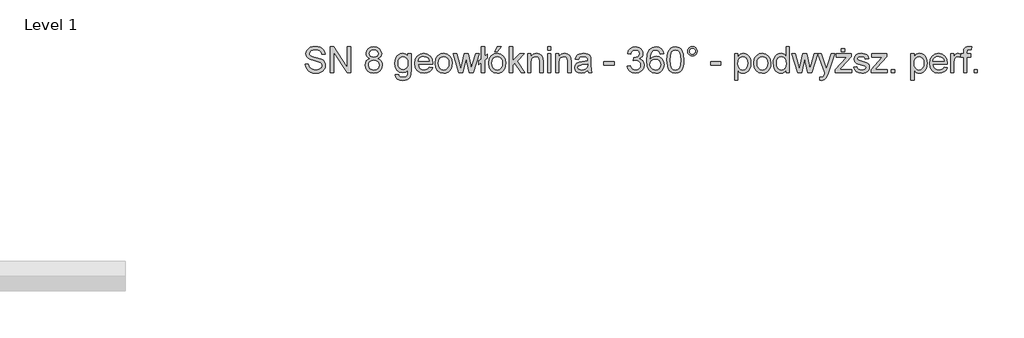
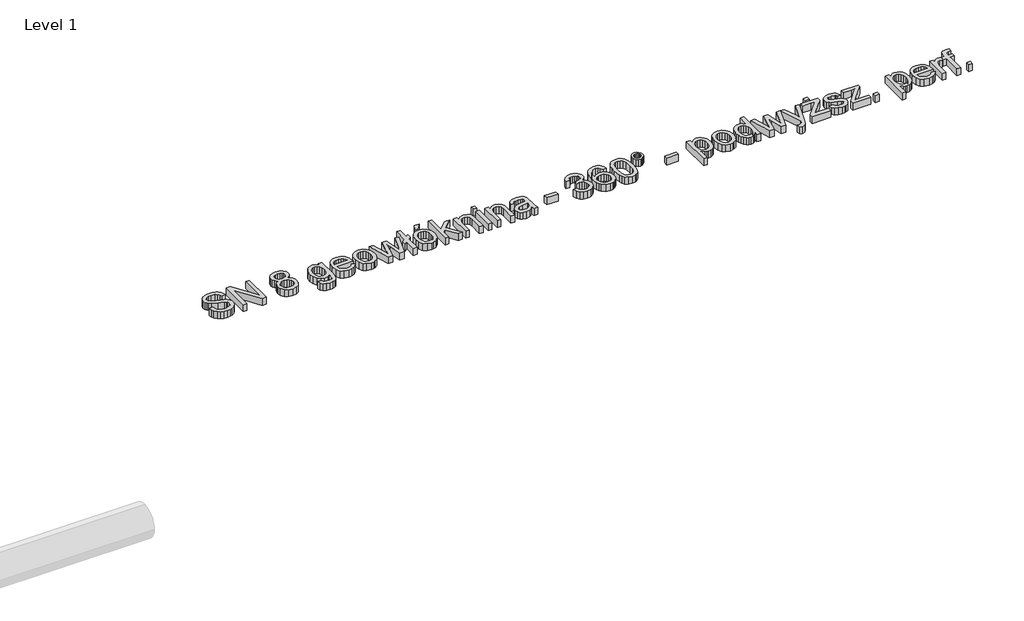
# One storey, part 8 of 10: 1 proxy.
"""IFC4 building model written with IfcOpenShell, lengths in millimetres."""

from ifc_helpers import new_model, si_unit, origin, origin_with_axes, place, context, project, spatial, polyline, outline, extrude, element, save

model = new_model("IFC4")

# Units and contexts
model_context = context("Model", 3, world=origin())
ifc_project = project(units=[si_unit("LENGTHUNIT", "METRE", prefix="MILLI")], contexts=[model_context])

# Site, building, storey
site = spatial("IfcSite", under=ifc_project)
building = spatial("IfcBuilding", under=site)
storey = spatial("IfcBuildingStorey", under=building, Name="Level 1", Elevation=0.0)

# Proxy
placement = place(None, origin())
element("IfcBuildingElementProxy", 1, Name="200mm Arial", ObjectType="200mm Arial", at=placement, inside=storey, context=model_context, shape_type="SweptSolid", body=[
    extrude(outline(polyline([(25360.1777004, 2231.0128426), (25385.291778, 2231.0128426), (25393.3851819, 2205.8742396), (25401.515374, 2196.983758), (25413.1527077, 2189.9817374), (25427.3774782, 2185.4383947), (25443.2699804, 2183.9239472), (25469.5122294, 2188.5102094), (25486.4593266, 2201.1162991), (25492.0266075, 2217.9652945), (25487.8572782, 2233.6370675), (25481.5051824, 2239.8358791), (25470.7875536, 2245.0414093), (25434.2200833, 2254.6308667), (25394.8567098, 2267.0162272), (25382.3548534, 2275.4652503), (25373.4950287, 2285.7046325), (25368.215922, 2297.5136446), (25366.4562198, 2310.6715573), (25368.632855, 2325.3807057), (25375.1627604, 2339.0965728), (25385.8742578, 2350.7216438), (25400.595669, 2359.1584042), (25418.2662675, 2364.2903581), (25437.8253269, 2366.0010093), (25459.0153298, 2364.2106503), (25477.5565824, 2358.8395732), (25492.786897, 2349.9981425), (25504.044086, 2337.796723), (25511.168734, 2322.9956041), (25514.0014253, 2306.3550752), (25488.8873478, 2306.3550752), (25484.2765601, 2321.3401351), (25474.6625773, 2332.1558658), (25459.6407292, 2338.7041653), (25438.8063455, 2340.8869318), (25417.4814525, 2338.7286908), (25402.8520119, 2332.2539676), (25394.390726, 2322.725824), (25391.5702974, 2311.4073212), (25393.5691229, 2301.7565502), (25399.5655994, 2293.9942401), (25413.7413189, 2287.0535332), (25440.5721791, 2279.9656734), (25485.0123241, 2267.3595837), (25499.3290651, 2258.2483729), (25509.3170613, 2247.0034466), (25515.1847791, 2233.7474321), (25517.140685, 2218.6029566), (25514.8904735, 2203.121256), (25508.1398389, 2188.5592603), (25497.1646927, 2176.026747), (25482.2409464, 2166.6334934), (25464.2944364, 2160.7657756), (25444.2509991, 2158.8098696), (25419.645825, 2160.9190598), (25399.3939211, 2167.2466301), (25383.2622956, 2177.8171061), (25371.0179566, 2192.6550132), (25363.1575446, 2210.7302819), (25360.1777004, 2231.0128426)])), origin_with_axes(), (0.0, 0.0, 1.0), 50.0),
    extrude(outline(polyline([(25554.8118013, 2161.9491293), (25554.8118013, 2362.8617496), (25581.6917125, 2362.8617496), (25686.6607084, 2203.6914731), (25686.6607084, 2362.8617496), (25711.774786, 2362.8617496), (25711.774786, 2161.9491293), (25684.8948748, 2161.9491293), (25579.9258789, 2321.1684569), (25579.9258789, 2161.9491293), (25554.8118013, 2161.9491293)])), origin_with_axes(), (0.0, 0.0, 1.0), 50.0),
    extrude(outline(polyline([(25861.3801307, 2272.6080335), (25847.9340437, 2279.2299094), (25838.4978706, 2288.2062301), (25832.9244583, 2299.3530545), (25831.0666543, 2312.4864418), (25835.1133562, 2332.1190776), (25847.253462, 2348.3426736), (25866.1258084, 2359.2319806), (25890.3692319, 2362.8617496), (25914.7598082, 2359.1461415), (25933.8774092, 2347.999317), (25946.2382442, 2331.5182037), (25950.3585226, 2311.7997287), (25948.525244, 2299.0894058), (25943.0254081, 2288.1326537), (25933.7977014, 2279.2115153), (25920.7808101, 2272.6080335), (25936.2379853, 2264.6433883), (25947.489043, 2252.914084), (25954.3500422, 2237.9842064), (25956.6370419, 2220.4178411), (25952.0998307, 2196.4074096), (25938.4881969, 2176.5663073), (25917.4698722, 2163.2489791), (25890.7125884, 2158.8098696), (25863.9553046, 2163.2673732), (25842.93698, 2176.6398837), (25829.3253461, 2196.6710583), (25824.7881349, 2221.1045542), (25827.1671051, 2239.3515011), (25834.3040158, 2254.3610865), (25845.830985, 2265.6182756), (25861.3801307, 2272.6080335)]), holes=[polyline([(25856.1807318, 2311.7506778), (25858.4064179, 2300.7877943), (25865.0834761, 2292.0322028), (25876.0157027, 2286.2932437), (25891.006894, 2284.3802573), (25905.6485974, 2286.280981), (25916.4152771, 2291.9831519), (25923.0371531, 2300.4444378), (25925.244445, 2310.6225063), (25922.9635767, 2321.186851), (25916.1209715, 2329.9240483), (25905.207139, 2335.7917662), (25890.7125884, 2337.7476721), (25876.1260673, 2335.8346857), (25865.2306289, 2330.0957266), (25858.4432061, 2321.6834916), (25856.1807318, 2311.7506778)]), polyline([(25849.9022124, 2221.987471), (25854.0960672, 2203.0783364), (25859.9024713, 2194.9665384), (25868.9339743, 2188.9271423), (25890.9087921, 2183.9239472), (25908.0030422, 2186.5543035), (25920.8298611, 2194.4453722), (25928.8496886, 2206.3954057), (25931.5229644, 2221.202656), (25928.7638494, 2236.2612924), (25920.4865046, 2248.4749746), (25907.3653801, 2256.5683785), (25890.0749263, 2259.2661798), (25873.2197995, 2256.6051667), (25860.5217393, 2248.6221274), (25852.5570941, 2236.6414371), (25849.9022124, 2221.987471)])]), origin_with_axes(), (0.0, 0.0, 1.0), 50.0),
    extrude(outline(polyline([(26057.0933521, 2149.3920906), (26082.2074296, 2146.2528309), (26084.9788073, 2138.4046817), (26090.3498845, 2133.0090791), (26100.9080977, 2128.8152243), (26114.728198, 2127.4172727), (26129.4680033, 2128.9991653), (26140.4308867, 2133.744843), (26148.0337813, 2141.3477376), (26152.6936199, 2151.5012807), (26154.4104026, 2180.7846875), (26136.7275413, 2166.6580189), (26115.1696564, 2161.9491293), (26089.2768953, 2167.4305711), (26069.9692219, 2183.8748963), (26057.9578748, 2207.9834297), (26053.9540924, 2236.4574961), (26055.7505828, 2256.7339254), (26061.140054, 2275.3794112), (26069.9324337, 2291.1799429), (26081.9376495, 2302.9215099), (26096.7448998, 2310.2055734), (26113.9433831, 2312.6335946), (26136.3473966, 2307.1398901), (26154.4104026, 2290.6587767), (26154.4104026, 2309.4943349), (26179.5244801, 2309.4943349), (26179.5244801, 2182.1090627), (26177.8076974, 2152.6968972), (26172.6573495, 2133.3279101), (26163.7852621, 2120.4826971), (26150.9032609, 2110.6418537), (26134.2933888, 2104.3878598), (26114.2376887, 2102.3031952), (26090.8710506, 2105.2401198), (26072.4708195, 2114.0508936), (26060.6679388, 2128.760042), (26057.0933521, 2149.3920906)]), holes=[polyline([(26079.0681699, 2238.1742787), (26081.7475771, 2215.1387345), (26089.7857987, 2199.3014146), (26101.8707223, 2190.1227588), (26116.6902353, 2187.0632069), (26131.3993838, 2190.1043647), (26143.545621, 2199.2278382), (26151.6942072, 2214.862823), (26154.4104026, 2237.4385148), (26151.6144994, 2259.2109975), (26143.2267899, 2274.8889019), (26130.9027431, 2284.3618632), (26116.2978279, 2287.519517), (26101.9565614, 2284.4109142), (26089.9329515, 2275.0851056), (26081.7843653, 2259.6401932), (26079.0681699, 2238.1742787)])]), origin_with_axes(), (0.0, 0.0, 1.0), 50.0),
    extrude(outline(polyline([(26320.4968606, 2205.898765), (26345.1204289, 2202.7595053), (26336.2483414, 2184.20599), (26322.091016, 2170.3368388), (26302.9672836, 2161.6916119), (26279.1959753, 2158.8098696), (26249.7286275, 2163.782408), (26227.0548339, 2178.7000229), (26212.5970715, 2202.5939584), (26207.7778173, 2234.4954588), (26212.6461224, 2267.4699483), (26227.2510376, 2292.1303047), (26249.6182629, 2307.5077721), (26277.7734983, 2312.6335946), (26305.0519482, 2307.5200348), (26326.8489564, 2292.1793556), (26341.1411719, 2267.5680502), (26345.9052438, 2234.6426116), (26345.758091, 2227.8735829), (26232.8918949, 2227.8735829), (26237.2390338, 2209.0748129), (26247.3373945, 2195.2547126), (26261.9116529, 2186.7566385), (26279.6864846, 2183.9239472), (26304.3100529, 2189.172397), (26313.4580518, 2195.9782139), (26320.4968606, 2205.898765)]), holes=[polyline([(26232.8918949, 2252.9876604), (26320.7911662, 2252.9876604), (26317.3943891, 2266.2559377), (26310.735725, 2275.7472932), (26296.0940216, 2284.5764611), (26277.6753964, 2287.519517), (26260.7466933, 2285.1712036), (26246.7487833, 2278.1262634), (26237.0183046, 2267.1449859), (26232.8918949, 2252.9876604)])]), origin_with_axes(), (0.0, 0.0, 1.0), 50.0),
    extrude(outline(polyline([(26364.7408019, 2235.7217321), (26370.1731927, 2271.295921), (26376.9636812, 2285.119087), (26386.4703651, 2296.299634), (26406.605773, 2308.5501044), (26430.7143064, 2312.6335946), (26457.0975768, 2307.6610563), (26478.1710838, 2292.7434414), (26491.9850527, 2269.0579722), (26496.589709, 2237.7818713), (26494.5540953, 2212.4102763), (26488.4472542, 2193.0964716), (26478.4469953, 2178.6325778), (26464.7311282, 2167.8107158), (26448.4400872, 2161.0600812), (26430.7143064, 2158.8098696), (26404.0122049, 2163.7640139), (26382.9632234, 2178.6264465), (26369.2964073, 2202.8085563), (26364.7408019, 2235.7217321)]), holes=[polyline([(26389.8548795, 2235.770783), (26392.7611472, 2213.0418071), (26401.4799505, 2196.848868), (26414.601075, 2187.1551774), (26430.7143064, 2183.9239472), (26446.7539614, 2187.1735715), (26459.8505604, 2196.9224443), (26468.5693637, 2213.3299813), (26471.4756315, 2236.555598), (26468.5509696, 2258.6223863), (26459.776984, 2274.5945963), (26446.6619909, 2284.2882868), (26430.7143064, 2287.519517), (26414.601075, 2284.3005496), (26401.4799505, 2274.6436472), (26392.7611472, 2258.4874962), (26389.8548795, 2235.770783)])]), origin_with_axes(), (0.0, 0.0, 1.0), 50.0),
    extrude(outline(polyline([(26549.3194616, 2161.9491293), (26504.4378582, 2309.4943349), (26530.5329544, 2309.4943349), (26555.9903885, 2223.409948), (26563.5932831, 2192.6550132), (26569.8227515, 2222.2817766), (26590.0807867, 2309.4943349), (26620.0018556, 2309.4943349), (26640.161789, 2222.5270312), (26645.7045444, 2195.696171), (26653.6507955, 2223.9985592), (26679.1572805, 2309.4943349), (26705.3504785, 2309.4943349), (26660.1255186, 2161.9491293), (26629.7629913, 2161.9491293), (26610.4859747, 2248.4749746), (26604.8941684, 2275.4529876), (26580.0253455, 2161.9491293), (26549.3194616, 2161.9491293)])), origin_with_axes(), (0.0, 0.0, 1.0), 50.0),
    extrude(outline(polyline([(26722.6164068, 2241.3625894), (26703.7808487, 2226.303953), (26703.7808487, 2254.5572903), (26722.6164068, 2269.6159266), (26722.6164068, 2362.8617496), (26747.7304844, 2362.8617496), (26747.7304844, 2289.726809), (26766.5660425, 2304.7854453), (26766.5660425, 2276.5321081), (26747.7304844, 2261.4734718), (26747.7304844, 2161.9491293), (26722.6164068, 2161.9491293), (26722.6164068, 2241.3625894)])), origin_with_axes(), (0.0, 0.0, 1.0), 50.0),
    extrude(outline(polyline([(26826.2119767, 2325.1906333), (26845.0475348, 2362.8617496), (26876.4401318, 2362.8617496), (26845.0475348, 2325.1906333), (26826.2119767, 2325.1906333)])), origin_with_axes(), (0.0, 0.0, 1.0), 50.0),
    extrude(outline(polyline([(26779.1230813, 2235.7217321), (26784.5554721, 2271.295921), (26791.3459606, 2285.119087), (26800.8526445, 2296.299634), (26820.9880523, 2308.5501044), (26845.0965858, 2312.6335946), (26871.4798562, 2307.6610563), (26892.5533631, 2292.7434414), (26906.3673321, 2269.0579722), (26910.9719884, 2237.7818713), (26908.9363747, 2212.4102763), (26902.8295335, 2193.0964716), (26892.8292746, 2178.6325778), (26879.1134076, 2167.8107158), (26862.8223666, 2161.0600812), (26845.0965858, 2158.8098696), (26818.3944843, 2163.7640139), (26797.3455028, 2178.6264465), (26783.6786867, 2202.8085563), (26779.1230813, 2235.7217321)]), holes=[polyline([(26804.2371588, 2235.770783), (26807.1434266, 2213.0418071), (26815.8622299, 2196.848868), (26828.9833544, 2187.1551774), (26845.0965858, 2183.9239472), (26861.1362408, 2187.1735715), (26874.2328398, 2196.9224443), (26882.9516431, 2213.3299813), (26885.8579108, 2236.555598), (26882.933249, 2258.6223863), (26874.1592634, 2274.5945963), (26861.0442703, 2284.2882868), (26845.0965858, 2287.519517), (26828.9833544, 2284.3005496), (26815.8622299, 2274.6436472), (26807.1434266, 2258.4874962), (26804.2371588, 2235.770783)])]), origin_with_axes(), (0.0, 0.0, 1.0), 50.0),
    extrude(outline(polyline([(26939.2253256, 2161.9491293), (26939.2253256, 2362.8617496), (26964.3394031, 2362.8617496), (26964.3394031, 2254.9006468), (27020.6498739, 2309.4943349), (27055.3779342, 2309.4943349), (26998.3807504, 2254.2139337), (27058.5171939, 2161.9491293), (27029.1847362, 2161.9491293), (26980.3790581, 2236.7518017), (26964.3394031, 2221.202656), (26964.3394031, 2161.9491293), (26939.2253256, 2161.9491293)])), origin_with_axes(), (0.0, 0.0, 1.0), 50.0),
    extrude(outline(polyline([(27080.4920117, 2161.9491293), (27080.4920117, 2309.4943349), (27105.6060893, 2309.4943349), (27105.6060893, 2288.8929431), (27114.3310239, 2299.2794781), (27124.8095294, 2306.6984317), (27137.0416058, 2311.1498039), (27151.027253, 2312.6335946), (27174.7433789, 2307.8511286), (27190.9301867, 2295.2940899), (27198.4595049, 2276.8264137), (27199.78388, 2252.546202), (27199.78388, 2161.9491293), (27174.6698025, 2161.9491293), (27174.6698025, 2249.1616877), (27171.7757975, 2271.3817602), (27161.548678, 2283.1294586), (27144.3072752, 2287.519517), (27129.5981267, 2285.0547077), (27117.0594821, 2277.6602796), (27108.4694375, 2263.3741954), (27105.6060893, 2240.2344179), (27105.6060893, 2161.9491293), (27080.4920117, 2161.9491293)])), origin_with_axes(), (0.0, 0.0, 1.0), 50.0),
    extrude(outline(polyline([(27234.3157367, 2337.7476721), (27234.3157367, 2362.8617496), (27259.4298142, 2362.8617496), (27259.4298142, 2337.7476721), (27234.3157367, 2337.7476721)])), origin_with_axes(), (0.0, 0.0, 1.0), 50.0),
    extrude(outline(polyline([(27234.3157367, 2161.9491293), (27234.3157367, 2309.4943349), (27259.4298142, 2309.4943349), (27259.4298142, 2161.9491293), (27234.3157367, 2161.9491293)])), origin_with_axes(), (0.0, 0.0, 1.0), 50.0),
    extrude(outline(polyline([(27297.1009305, 2161.9491293), (27297.1009305, 2309.4943349), (27322.215008, 2309.4943349), (27322.215008, 2288.8929431), (27330.9399427, 2299.2794781), (27341.4184482, 2306.6984317), (27353.6505245, 2311.1498039), (27367.6361717, 2312.6335946), (27391.3522977, 2307.8511286), (27407.5391055, 2295.2940899), (27415.0684236, 2276.8264137), (27416.3927988, 2252.546202), (27416.3927988, 2161.9491293), (27391.2787213, 2161.9491293), (27391.2787213, 2249.1616877), (27388.3847162, 2271.3817602), (27378.1575968, 2283.1294586), (27360.9161939, 2287.519517), (27346.2070455, 2285.0547077), (27333.6684008, 2277.6602796), (27325.0783562, 2263.3741954), (27322.215008, 2240.2344179), (27322.215008, 2161.9491293), (27297.1009305, 2161.9491293)])), origin_with_axes(), (0.0, 0.0, 1.0), 50.0),
    extrude(outline(polyline([(27545.1024462, 2180.7846875), (27520.7486581, 2163.7640139), (27493.8442215, 2158.8098696), (27472.8565537, 2161.7897138), (27457.3748531, 2170.7292463), (27447.8283153, 2184.3040919), (27444.646136, 2201.1898755), (27449.4531274, 2221.0555032), (27462.0837426, 2235.4764774), (27479.668502, 2243.7170341), (27501.3980652, 2247.493956), (27544.9552934, 2256.1269201), (27545.1024462, 2261.7187264), (27543.3734008, 2272.9268646), (27538.1862647, 2280.259979), (27526.5857191, 2285.7046325), (27510.4234368, 2287.519517), (27495.4629023, 2286.3116378), (27485.0150536, 2282.6880002), (27477.8904057, 2275.9864165), (27472.8994733, 2265.5446992), (27447.7853957, 2268.6839589), (27458.6501773, 2293.2094252), (27467.9085409, 2301.4622446), (27480.5268933, 2307.5813485), (27513.6607983, 2312.6335946), (27544.0969021, 2308.1699597), (27561.289254, 2296.9618216), (27568.9902504, 2279.9166225), (27570.2165237, 2257.9418046), (27570.2165237, 2226.6963605), (27571.491848, 2183.0655559), (27576.4950431, 2161.9491293), (27551.3809656, 2161.9491293), (27545.1024462, 2180.7846875)]), holes=[polyline([(27545.1024462, 2231.0128426), (27504.5863758, 2223.3118461), (27482.9794399, 2219.2406187), (27473.1937789, 2212.6187428), (27469.7602136, 2202.9557091), (27471.6302804, 2195.4877046), (27477.2404808, 2189.3686007), (27486.4681875, 2185.2851106), (27499.1907732, 2183.9239472), (27512.6797797, 2185.426132), (27524.5991563, 2189.9326864), (27540.9821678, 2204.476288), (27544.9552934, 2223.9004573), (27545.1024462, 2231.0128426)])]), origin_with_axes(), (0.0, 0.0, 1.0), 50.0),
    extrude(outline(polyline([(27670.6728339, 2221.5950635), (27670.6728339, 2246.709141), (27749.1543262, 2246.709141), (27749.1543262, 2221.5950635), (27670.6728339, 2221.5950635)])), origin_with_axes(), (0.0, 0.0, 1.0), 50.0),
    extrude(outline(polyline([(27849.6106363, 2215.3165441), (27874.7247139, 2218.4558038), (27880.347177, 2202.6736662), (27888.5816023, 2192.0173511), (27899.83266, 2185.9472982), (27914.5050203, 2183.9239472), (27931.7218977, 2186.7075876), (27945.0147004, 2195.0585089), (27953.5127745, 2207.5174458), (27956.3454659, 2222.6251331), (27953.5373, 2236.9663995), (27945.1128023, 2248.5976019), (27932.3595598, 2256.3047297), (27916.5651594, 2258.8737723), (27898.9558746, 2256.1269201), (27901.7517778, 2281.2409976), (27905.7739543, 2280.946692), (27920.8203279, 2282.7493138), (27934.2725462, 2288.1571792), (27943.7639016, 2297.3051781), (27946.9276868, 2310.3282007), (27944.6345557, 2321.1745882), (27937.7551624, 2329.9730993), (27927.2582628, 2335.8040289), (27914.1126128, 2337.7476721), (27900.9424374, 2335.7856348), (27890.1757577, 2329.8995229), (27882.3153457, 2320.0893363), (27877.8639736, 2306.3550752), (27852.749896, 2309.4943349), (27860.1443241, 2332.0455012), (27873.3022368, 2348.8822338), (27891.3039291, 2359.3668707), (27913.229696, 2362.8617496), (27929.017965, 2361.1388356), (27943.518647, 2355.9700936), (27955.7445919, 2347.815376), (27964.7086499, 2337.1345354), (27970.2084857, 2324.8288827), (27972.0417643, 2311.7997287), (27970.3004562, 2299.6596229), (27965.0765319, 2288.6476885), (27956.4435677, 2279.2666976), (27944.4751402, 2272.0194223), (27960.1959641, 2265.6673265), (27971.8455606, 2254.8515959), (27979.0560477, 2240.1608415), (27981.4595434, 2222.1836747), (27976.652552, 2197.7072593), (27962.2315778, 2177.2530203), (27940.4652264, 2163.4206573), (27913.6221035, 2158.8098696), (27889.3418918, 2162.746207), (27869.5743659, 2174.555219), (27855.827842, 2192.618225), (27849.6106363, 2215.3165441)])), origin_with_axes(), (0.0, 0.0, 1.0), 50.0),
    extrude(outline(polyline([(28132.1440086, 2309.4943349), (28107.0299311, 2306.3550752), (28097.5140501, 2327.2998234), (28086.121971, 2335.1357099), (28072.3509217, 2337.7476721), (28049.6893908, 2331.6653564), (28040.2532176, 2322.057505), (28032.5460898, 2308.8321473), (28027.3405596, 2290.1253478), (28025.4091791, 2264.0731712), (28035.4830144, 2275.8270009), (28047.5556752, 2284.1104772), (28060.9527112, 2289.0217018), (28074.999672, 2290.6587767), (28098.2007632, 2286.1828791), (28117.6739835, 2272.7551863), (28130.8809471, 2252.2396337), (28135.2832683, 2226.5001568), (28133.2108664, 2208.5168586), (28126.9936607, 2191.8456728), (28117.146686, 2177.7067415), (28104.184977, 2167.3202065), (28088.697145, 2160.9374539), (28071.2718012, 2158.8098696), (28042.7793406, 2164.4507269), (28020.0871529, 2181.3732987), (28011.4281304, 2194.4821604), (28005.2431144, 2211.2453167), (28000.2951016, 2255.7345126), (28005.788806, 2305.7542013), (28012.6559366, 2324.8319484), (28022.2699194, 2339.9549641), (28032.6901769, 2349.9766828), (28044.7720348, 2357.1350532), (28073.9205515, 2362.8617496), (28095.956683, 2359.3178198), (28113.6027561, 2348.6860301), (28125.9635911, 2331.8002465), (28132.1440086, 2309.4943349)]), holes=[polyline([(28025.4091791, 2226.8925642), (28031.2217146, 2205.1384756), (28046.6727584, 2189.3440752), (28069.3097638, 2183.9239472), (28085.8828477, 2186.7321131), (28098.9120017, 2195.1566108), (28107.3548935, 2208.4003626), (28110.1691908, 2225.6662909), (28107.3916817, 2242.2393748), (28099.0591545, 2254.8761213), (28085.8092713, 2262.8775547), (28068.2796943, 2265.5446992), (28051.7311358, 2262.8775547), (28037.8926415, 2254.8761213), (28028.5300447, 2242.5459431), (28025.4091791, 2226.8925642)])]), origin_with_axes(), (0.0, 0.0, 1.0), 50.0),
    extrude(outline(polyline([(28157.2580862, 2260.7867587), (28159.1036275, 2292.9457765), (28164.6402515, 2318.5932829), (28173.8127759, 2338.1216855), (28186.5660184, 2351.9233917), (28202.9919495, 2360.1271601), (28223.1825397, 2362.8617496), (28238.658109, 2361.2430689), (28252.5149974, 2356.3870265), (28264.1032803, 2348.483695), (28272.7730326, 2337.7231466), (28284.5452565, 2307.9982814), (28289.1069932, 2260.7867587), (28287.279846, 2228.811682), (28281.7984043, 2203.2254892), (28272.6810621, 2183.6786925), (28259.9462137, 2169.821804), (28243.4834945, 2161.5628532), (28223.1825397, 2158.8098696), (28197.0874435, 2163.5923356), (28177.2708667, 2177.9397334), (28168.5152752, 2193.0688805), (28162.2612813, 2211.919767), (28157.2580862, 2260.7867587)]), holes=[polyline([(28182.3721637, 2260.8358096), (28185.3152197, 2221.3314147), (28194.1443875, 2198.4675487), (28207.2900375, 2187.5598476), (28223.1825397, 2183.9239472), (28239.0750419, 2187.5721103), (28252.2206918, 2198.5165997), (28261.0498597, 2221.3927284), (28263.9929157, 2260.8358096), (28261.1479616, 2299.4511564), (28252.6130993, 2322.492832), (28239.4919748, 2333.9339621), (28222.8882341, 2337.7476721), (28207.1674102, 2334.3876832), (28194.536795, 2324.3077165), (28185.4133215, 2299.8313011), (28182.3721637, 2260.8358096)])]), origin_with_axes(), (0.0, 0.0, 1.0), 50.0),
    extrude(outline(polyline([(28317.3603305, 2328.378944), (28320.1255768, 2342.8612318), (28328.4213158, 2355.0136004), (28340.5920785, 2363.2541571), (28354.9823958, 2366.0010093), (28369.5382601, 2363.2541571), (28381.7151542, 2355.0136004), (28389.9557108, 2342.8612318), (28392.7025631, 2328.378944), (28389.9373167, 2313.9150502), (28381.6415778, 2301.719762), (28369.4462896, 2293.4240231), (28354.9823958, 2290.6587767), (28340.5920785, 2293.405629), (28328.4213158, 2301.6461856), (28320.1255768, 2313.8230797), (28317.3603305, 2328.378944)]), holes=[polyline([(28333.0566289, 2328.329893), (28334.6691783, 2319.8808699), (28339.5068266, 2312.7807474), (28346.6253432, 2307.9614932), (28355.0804977, 2306.3550752), (28363.4620758, 2307.9614932), (28370.556067, 2312.7807474), (28375.3937152, 2319.8808699), (28377.0062646, 2328.329893), (28375.3937152, 2336.7789162), (28370.556067, 2343.8790387), (28363.4620758, 2348.6982928), (28355.0804977, 2350.3047109), (28346.6253432, 2348.6982928), (28339.5068266, 2343.8790387), (28334.6691783, 2336.7789162), (28333.0566289, 2328.329893)])]), origin_with_axes(), (0.0, 0.0, 1.0), 50.0),
    extrude(outline(polyline([(28496.2981329, 2221.5950635), (28496.2981329, 2246.709141), (28574.7796252, 2246.709141), (28574.7796252, 2221.5950635), (28496.2981329, 2221.5950635)])), origin_with_axes(), (0.0, 0.0, 1.0), 50.0),
    extrude(outline(polyline([(28681.5144548, 2105.4424549), (28681.5144548, 2309.4943349), (28706.6285323, 2309.4943349), (28706.6285323, 2284.8707667), (28723.9925625, 2305.6928876), (28734.6856658, 2310.8984178), (28747.4389083, 2312.6335946), (28764.4227937, 2310.2055734), (28779.2729636, 2302.9215099), (28791.3640185, 2291.2228624), (28800.0705591, 2275.5510895), (28805.3312716, 2257.0466251), (28807.0848424, 2236.8499036), (28805.104411, 2215.3717264), (28799.1631168, 2196.1621549), (28789.4510321, 2180.1960763), (28776.1582294, 2168.4483779), (28760.6765287, 2161.2194967), (28744.3977505, 2158.8098696), (28732.8523872, 2160.4224191), (28722.5455599, 2165.2600673), (28706.6285323, 2181.5695024), (28706.6285323, 2105.4424549), (28681.5144548, 2105.4424549)]), holes=[polyline([(28706.6285323, 2234.5445097), (28709.3447277, 2212.0301316), (28717.4933139, 2196.2847822), (28729.5169238, 2187.0141559), (28743.8581902, 2183.9239472), (28758.4324486, 2187.1245205), (28770.7626268, 2196.7262406), (28779.1687304, 2213.0479385), (28781.9707649, 2236.4084452), (28779.2361754, 2258.8001959), (28771.0324069, 2274.7662745), (28759.0271911, 2284.3312064), (28744.8882598, 2287.519517), (28730.6941461, 2284.1288713), (28718.2290779, 2273.9569341), (28709.5286687, 2257.3225366), (28706.6285323, 2234.5445097)])]), origin_with_axes(), (0.0, 0.0, 1.0), 50.0),
    extrude(outline(polyline([(28829.0596603, 2235.7217321), (28834.4920511, 2271.295921), (28841.2825396, 2285.119087), (28850.7892235, 2296.299634), (28870.9246313, 2308.5501044), (28895.0331648, 2312.6335946), (28921.4164352, 2307.6610563), (28942.4899421, 2292.7434414), (28956.3039111, 2269.0579722), (28960.9085674, 2237.7818713), (28958.8729537, 2212.4102763), (28952.7661125, 2193.0964716), (28942.7658536, 2178.6325778), (28929.0499866, 2167.8107158), (28912.7589456, 2161.0600812), (28895.0331648, 2158.8098696), (28868.3310633, 2163.7640139), (28847.2820818, 2178.6264465), (28833.6152657, 2202.8085563), (28829.0596603, 2235.7217321)]), holes=[polyline([(28854.1737378, 2235.770783), (28857.0800056, 2213.0418071), (28865.7988089, 2196.848868), (28878.9199334, 2187.1551774), (28895.0331648, 2183.9239472), (28911.0728197, 2187.1735715), (28924.1694188, 2196.9224443), (28932.8882221, 2213.3299813), (28935.7944898, 2236.555598), (28932.869828, 2258.6223863), (28924.0958424, 2274.5945963), (28910.9808492, 2284.2882868), (28895.0331648, 2287.519517), (28878.9199334, 2284.3005496), (28865.7988089, 2274.6436472), (28857.0800056, 2258.4874962), (28854.1737378, 2235.770783)])]), origin_with_axes(), (0.0, 0.0, 1.0), 50.0),
    extrude(outline(polyline([(29080.2004357, 2161.9491293), (29080.2004357, 2185.6407298), (29072.6864459, 2173.9022285), (29063.5844322, 2165.5175847), (29052.8943946, 2160.4867984), (29040.616333, 2158.8098696), (29024.3804743, 2161.2378908), (29009.5180417, 2168.5219543), (28996.9364774, 2180.1531567), (28987.5432238, 2195.6225946), (28981.6939001, 2214.3048686), (28979.7441255, 2235.5745793), (28981.5406159, 2256.5806412), (28986.9300871, 2275.5510895), (28995.9064078, 2291.4068034), (29008.4634466, 2303.0686627), (29023.6508416, 2310.2423616), (29040.5182311, 2312.6335946), (29052.8054898, 2310.9229433), (29063.6702713, 2305.7909895), (29080.2004357, 2288.0100264), (29080.2004357, 2362.8617496), (29105.3145132, 2362.8617496), (29105.3145132, 2161.9491293), (29080.2004357, 2161.9491293)]), holes=[polyline([(29004.858203, 2235.6726812), (29007.6908944, 2212.955968), (29016.1889685, 2196.799817), (29028.5375408, 2187.1429146), (29042.9217268, 2183.9239472), (29057.2997815, 2186.9957618), (29069.3356541, 2196.2112058), (29077.4842403, 2211.7419574), (29080.2004357, 2233.7596948), (29077.4351893, 2257.83144), (29069.1394503, 2274.5210199), (29056.7970094, 2284.2698927), (29041.8916572, 2287.519517), (29027.3603184, 2284.3986514), (29015.4532045, 2275.0360547), (29007.5069534, 2258.9534801), (29004.858203, 2235.6726812)])]), origin_with_axes(), (0.0, 0.0, 1.0), 50.0),
    extrude(outline(polyline([(29167.4620449, 2161.9491293), (29122.5804415, 2309.4943349), (29148.6755377, 2309.4943349), (29174.1329718, 2223.409948), (29181.7358663, 2192.6550132), (29187.9653348, 2222.2817766), (29208.22337, 2309.4943349), (29238.1444389, 2309.4943349), (29258.3043723, 2222.5270312), (29263.8471277, 2195.696171), (29271.7933787, 2223.9985592), (29297.2998637, 2309.4943349), (29323.4930618, 2309.4943349), (29278.2681019, 2161.9491293), (29247.9055745, 2161.9491293), (29228.628558, 2248.4749746), (29223.0367517, 2275.4529876), (29198.1679288, 2161.9491293), (29167.4620449, 2161.9491293)])), origin_with_axes(), (0.0, 0.0, 1.0), 50.0),
    extrude(outline(polyline([(29340.7589901, 2105.4424549), (29337.6197304, 2129.6245647), (29350.3729729, 2127.4172727), (29362.2923496, 2130.1886504), (29369.6009385, 2137.9141723), (29376.4680691, 2156.4063739), (29378.4301064, 2162.4886896), (29325.0626916, 2309.4943349), (29351.5501953, 2309.4943349), (29379.8525835, 2227.5792773), (29389.7118209, 2194.8132542), (29399.5710584, 2223.7533045), (29428.6582615, 2309.4943349), (29454.9495614, 2309.4943349), (29403.5932349, 2158.4174622), (29390.2513812, 2125.6514392), (29375.6832542, 2107.9440524), (29356.111932, 2102.3031952), (29340.7589901, 2105.4424549)])), origin_with_axes(), (0.0, 0.0, 1.0), 50.0),
    extrude(outline(polyline([(29460.0508584, 2161.9491293), (29460.0508584, 2185.5916789), (29546.7238565, 2284.3802573), (29521.0702187, 2284.3802573), (29466.3293778, 2284.3802573), (29466.3293778, 2309.4943349), (29582.4819864, 2309.4943349), (29582.4819864, 2288.1571792), (29505.6191749, 2200.5031624), (29493.846951, 2187.0632069), (29522.8851032, 2187.0632069), (29585.6212461, 2187.0632069), (29585.6212461, 2161.9491293), (29460.0508584, 2161.9491293)])), origin_with_axes(), (0.0, 0.0, 1.0), 50.0),
    extrude(outline(polyline([(29507.1397538, 2325.1906333), (29507.1397538, 2350.3047109), (29532.2538313, 2350.3047109), (29532.2538313, 2325.1906333), (29507.1397538, 2325.1906333)])), origin_with_axes(), (0.0, 0.0, 1.0), 50.0),
    extrude(outline(polyline([(29601.3175446, 2205.898765), (29626.4316221, 2209.0380247), (29630.3924849, 2198.2958705), (29638.0566931, 2190.3986703), (29649.4732977, 2185.542628), (29664.6913496, 2183.9239472), (29679.7254605, 2185.4077379), (29690.2959365, 2189.85911), (29696.5499304, 2196.3093077), (29698.634595, 2203.7895749), (29696.5376676, 2210.1907216), (29690.2468855, 2215.0712894), (29664.397044, 2222.2327256), (29626.5787749, 2234.5199843), (29617.0077117, 2240.6942704), (29610.073136, 2248.8673821), (29604.4568043, 2269.1254173), (29608.9694901, 2287.8383481), (29621.2812742, 2302.136695), (29637.2473528, 2309.5679113), (29658.8542886, 2312.6335946), (29689.4130197, 2307.7039758), (29700.841887, 2301.903703), (29708.837189, 2294.3621221), (29717.4701532, 2271.8232186), (29692.3560756, 2268.6839589), (29689.1861591, 2276.5872904), (29682.9137711, 2282.5408474), (29660.8163259, 2287.519517), (29646.3953517, 2286.3300319), (29636.7813689, 2282.7615766), (29631.3735036, 2277.6112286), (29629.5708818, 2271.6760658), (29632.5629887, 2264.3674768), (29641.9317168, 2258.8247214), (29663.5631781, 2253.4781697), (29700.4249541, 2241.656895), (29717.5437296, 2228.2659903), (29722.1974368, 2218.4190156), (29723.7486726, 2206.4383253), (29721.9276567, 2194.0529648), (29716.4646091, 2182.4033683), (29707.5679961, 2172.4031094), (29695.4462844, 2164.9657617), (29680.804581, 2160.3488427), (29664.3479931, 2158.8098696), (29639.0254491, 2161.7774511), (29620.5455102, 2170.6801954), (29608.2092006, 2185.4200006), (29601.3175446, 2205.898765)])), origin_with_axes(), (0.0, 0.0, 1.0), 50.0),
    extrude(outline(polyline([(29736.3057113, 2161.9491293), (29736.3057113, 2185.5916789), (29822.9787094, 2284.3802573), (29797.3250716, 2284.3802573), (29742.5842307, 2284.3802573), (29742.5842307, 2309.4943349), (29858.7368393, 2309.4943349), (29858.7368393, 2288.1571792), (29781.8740278, 2200.5031624), (29770.1018039, 2187.0632069), (29799.1399561, 2187.0632069), (29861.876099, 2187.0632069), (29861.876099, 2161.9491293), (29736.3057113, 2161.9491293)])), origin_with_axes(), (0.0, 0.0, 1.0), 50.0),
    extrude(outline(polyline([(29893.2686959, 2161.9491293), (29893.2686959, 2187.0632069), (29918.3827735, 2187.0632069), (29918.3827735, 2161.9491293), (29893.2686959, 2161.9491293)])), origin_with_axes(), (0.0, 0.0, 1.0), 50.0),
    extrude(outline(polyline([(30043.9531612, 2105.4424549), (30043.9531612, 2309.4943349), (30069.0672387, 2309.4943349), (30069.0672387, 2284.8707667), (30086.4312689, 2305.6928876), (30097.1243722, 2310.8984178), (30109.8776147, 2312.6335946), (30126.8615001, 2310.2055734), (30141.71167, 2302.9215099), (30153.8027249, 2291.2228624), (30162.5092655, 2275.5510895), (30167.769978, 2257.0466251), (30169.5235488, 2236.8499036), (30167.5431174, 2215.3717264), (30161.6018232, 2196.1621549), (30151.8897385, 2180.1960763), (30138.5969358, 2168.4483779), (30123.1152352, 2161.2194967), (30106.8364569, 2158.8098696), (30095.2910936, 2160.4224191), (30084.9842664, 2165.2600673), (30069.0672387, 2181.5695024), (30069.0672387, 2105.4424549), (30043.9531612, 2105.4424549)]), holes=[polyline([(30069.0672387, 2234.5445097), (30071.7834341, 2212.0301316), (30079.9320203, 2196.2847822), (30091.9556302, 2187.0141559), (30106.2968966, 2183.9239472), (30120.871155, 2187.1245205), (30133.2013332, 2196.7262406), (30141.6074368, 2213.0479385), (30144.4094713, 2236.4084452), (30141.6748818, 2258.8001959), (30133.4711133, 2274.7662745), (30121.4658975, 2284.3312064), (30107.3269662, 2287.519517), (30093.1328525, 2284.1288713), (30080.6677843, 2273.9569341), (30071.9673751, 2257.3225366), (30069.0672387, 2234.5445097)])]), origin_with_axes(), (0.0, 0.0, 1.0), 50.0),
    extrude(outline(polyline([(30301.0781503, 2205.898765), (30325.7017185, 2202.7595053), (30316.8296311, 2184.20599), (30302.6723056, 2170.3368388), (30283.5485733, 2161.6916119), (30259.777265, 2158.8098696), (30230.3099172, 2163.782408), (30207.6361235, 2178.7000229), (30193.1783611, 2202.5939584), (30188.359107, 2234.4954588), (30193.2274121, 2267.4699483), (30207.8323273, 2292.1303047), (30230.1995526, 2307.5077721), (30258.3547879, 2312.6335946), (30285.6332379, 2307.5200348), (30307.4302461, 2292.1793556), (30321.7224616, 2267.5680502), (30326.4865335, 2234.6426116), (30326.3393807, 2227.8735829), (30213.4731845, 2227.8735829), (30217.8203234, 2209.0748129), (30227.9186842, 2195.2547126), (30242.4929426, 2186.7566385), (30260.2677743, 2183.9239472), (30284.8913425, 2189.172397), (30294.0393415, 2195.9782139), (30301.0781503, 2205.898765)]), holes=[polyline([(30213.4731845, 2252.9876604), (30301.3724559, 2252.9876604), (30297.9756788, 2266.2559377), (30291.3170147, 2275.7472932), (30276.6753113, 2284.5764611), (30258.2566861, 2287.519517), (30241.3279829, 2285.1712036), (30227.330073, 2278.1262634), (30217.5995942, 2267.1449859), (30213.4731845, 2252.9876604)])]), origin_with_axes(), (0.0, 0.0, 1.0), 50.0),
    extrude(outline(polyline([(30351.600611, 2161.9491293), (30351.600611, 2309.4943349), (30373.5754288, 2309.4943349), (30373.5754288, 2287.6666698), (30389.1736254, 2307.7775522), (30404.8699239, 2312.6335946), (30417.3779117, 2310.6960827), (30430.0821033, 2304.8835472), (30421.6943938, 2282.3691691), (30404.036058, 2287.519517), (30389.835813, 2282.5653728), (30380.7859159, 2268.8311117), (30376.7146885, 2239.4986539), (30376.7146885, 2161.9491293), (30351.600611, 2161.9491293)])), origin_with_axes(), (0.0, 0.0, 1.0), 50.0),
    extrude(outline(polyline([(30452.0569211, 2161.9491293), (30452.0569211, 2284.3802573), (30430.0821033, 2284.3802573), (30430.0821033, 2309.4943349), (30452.0569211, 2309.4943349), (30452.0569211, 2324.3567675), (30454.7056715, 2345.3015157), (30459.7579176, 2353.652437), (30467.5570159, 2360.2620502), (30478.4708484, 2364.5662696), (30492.8672971, 2366.0010093), (30515.7740827, 2363.2541571), (30512.0952628, 2339.7097094), (30497.6252376, 2340.8869318), (30481.8063118, 2336.7176025), (30478.329827, 2330.7456515), (30477.1709987, 2321.1684569), (30477.1709987, 2309.4943349), (30505.4243359, 2309.4943349), (30505.4243359, 2284.3802573), (30477.1709987, 2284.3802573), (30477.1709987, 2161.9491293), (30452.0569211, 2161.9491293)])), origin_with_axes(), (0.0, 0.0, 1.0), 50.0),
    extrude(outline(polyline([(30533.6776731, 2161.9491293), (30533.6776731, 2187.0632069), (30558.7917507, 2187.0632069), (30558.7917507, 2161.9491293), (30533.6776731, 2161.9491293)])), origin_with_axes(), (0.0, 0.0, 1.0), 50.0),
])

save(model, "model.ifc")
